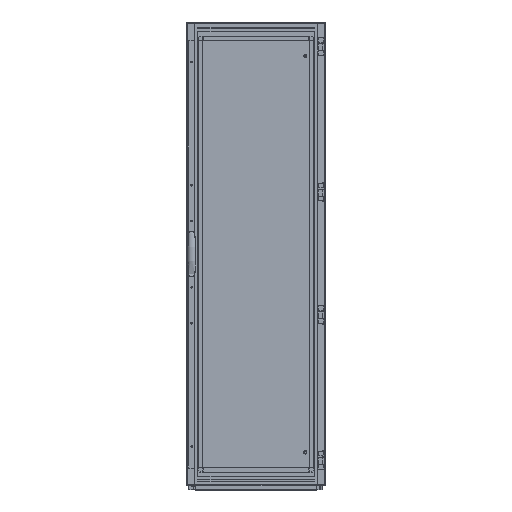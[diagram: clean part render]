
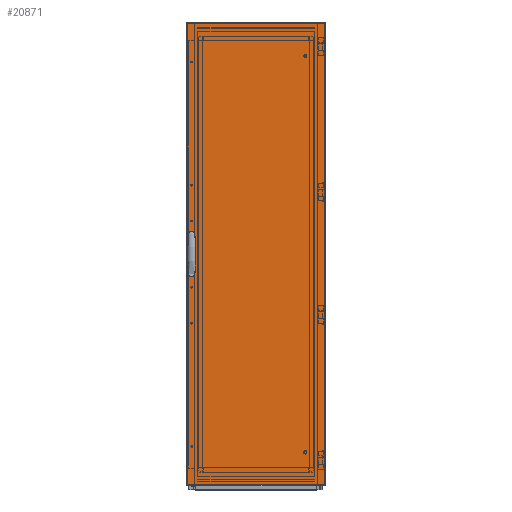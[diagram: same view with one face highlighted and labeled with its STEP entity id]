
A CAD part, top view. The second image highlights one B-rep face of the part: STEP entity #20871.
In plain terms, the highlighted planar face has unit normal (0, 0, 1) as drawn and (0, 0, -1) by its records, which use the part's own axes.
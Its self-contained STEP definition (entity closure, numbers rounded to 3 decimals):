
#289=CIRCLE('',#23048,2.6);
#290=CIRCLE('',#23049,2.6);
#3037=ORIENTED_EDGE('',*,*,#7710,.T.);
#3038=ORIENTED_EDGE('',*,*,#7711,.T.);
#3039=ORIENTED_EDGE('',*,*,#7712,.T.);
#3040=ORIENTED_EDGE('',*,*,#7713,.T.);
#3041=ORIENTED_EDGE('',*,*,#7714,.T.);
#3042=ORIENTED_EDGE('',*,*,#7715,.T.);
#3043=ORIENTED_EDGE('',*,*,#7716,.T.);
#3044=ORIENTED_EDGE('',*,*,#7717,.T.);
#3045=ORIENTED_EDGE('',*,*,#7718,.T.);
#3046=ORIENTED_EDGE('',*,*,#7719,.T.);
#3047=ORIENTED_EDGE('',*,*,#7720,.T.);
#3048=ORIENTED_EDGE('',*,*,#7721,.T.);
#3049=ORIENTED_EDGE('',*,*,#7722,.T.);
#3050=ORIENTED_EDGE('',*,*,#7723,.T.);
#3051=ORIENTED_EDGE('',*,*,#7724,.T.);
#3052=ORIENTED_EDGE('',*,*,#7725,.T.);
#3053=ORIENTED_EDGE('',*,*,#7726,.T.);
#3054=ORIENTED_EDGE('',*,*,#7727,.F.);
#3055=ORIENTED_EDGE('',*,*,#7728,.F.);
#3056=ORIENTED_EDGE('',*,*,#7729,.T.);
#3057=ORIENTED_EDGE('',*,*,#7730,.T.);
#3058=ORIENTED_EDGE('',*,*,#7731,.T.);
#7710=EDGE_CURVE('',#10255,#10256,#12505,.T.);
#7711=EDGE_CURVE('',#10256,#10257,#12506,.T.);
#7712=EDGE_CURVE('',#10257,#10258,#12507,.T.);
#7713=EDGE_CURVE('',#10258,#10259,#12508,.T.);
#7714=EDGE_CURVE('',#10259,#10260,#12509,.T.);
#7715=EDGE_CURVE('',#10260,#10261,#12510,.T.);
#7716=EDGE_CURVE('',#10261,#10262,#12511,.T.);
#7717=EDGE_CURVE('',#10262,#10263,#12512,.T.);
#7718=EDGE_CURVE('',#10263,#10264,#12513,.T.);
#7719=EDGE_CURVE('',#10264,#10265,#12514,.T.);
#7720=EDGE_CURVE('',#10265,#10266,#12515,.T.);
#7721=EDGE_CURVE('',#10266,#10267,#12516,.T.);
#7722=EDGE_CURVE('',#10267,#10268,#12517,.T.);
#7723=EDGE_CURVE('',#10268,#10269,#12518,.T.);
#7724=EDGE_CURVE('',#10269,#10270,#12519,.T.);
#7725=EDGE_CURVE('',#10270,#10255,#12520,.T.);
#7726=EDGE_CURVE('',#10271,#10272,#12521,.T.);
#7727=EDGE_CURVE('',#10273,#10272,#12522,.T.);
#7728=EDGE_CURVE('',#10274,#10273,#12523,.T.);
#7729=EDGE_CURVE('',#10274,#10271,#12524,.T.);
#7730=EDGE_CURVE('',#10275,#10275,#289,.T.);
#7731=EDGE_CURVE('',#10276,#10276,#290,.T.);
#10255=VERTEX_POINT('',#32011);
#10256=VERTEX_POINT('',#32012);
#10257=VERTEX_POINT('',#32014);
#10258=VERTEX_POINT('',#32016);
#10259=VERTEX_POINT('',#32018);
#10260=VERTEX_POINT('',#32020);
#10261=VERTEX_POINT('',#32022);
#10262=VERTEX_POINT('',#32024);
#10263=VERTEX_POINT('',#32026);
#10264=VERTEX_POINT('',#32028);
#10265=VERTEX_POINT('',#32030);
#10266=VERTEX_POINT('',#32032);
#10267=VERTEX_POINT('',#32034);
#10268=VERTEX_POINT('',#32036);
#10269=VERTEX_POINT('',#32038);
#10270=VERTEX_POINT('',#32040);
#10271=VERTEX_POINT('',#32043);
#10272=VERTEX_POINT('',#32044);
#10273=VERTEX_POINT('',#32046);
#10274=VERTEX_POINT('',#32048);
#10275=VERTEX_POINT('',#32051);
#10276=VERTEX_POINT('',#32053);
#12505=LINE('',#32010,#15155);
#12506=LINE('',#32013,#15156);
#12507=LINE('',#32015,#15157);
#12508=LINE('',#32017,#15158);
#12509=LINE('',#32019,#15159);
#12510=LINE('',#32021,#15160);
#12511=LINE('',#32023,#15161);
#12512=LINE('',#32025,#15162);
#12513=LINE('',#32027,#15163);
#12514=LINE('',#32029,#15164);
#12515=LINE('',#32031,#15165);
#12516=LINE('',#32033,#15166);
#12517=LINE('',#32035,#15167);
#12518=LINE('',#32037,#15168);
#12519=LINE('',#32039,#15169);
#12520=LINE('',#32041,#15170);
#12521=LINE('',#32042,#15171);
#12522=LINE('',#32045,#15172);
#12523=LINE('',#32047,#15173);
#12524=LINE('',#32049,#15174);
#15155=VECTOR('',#26189,1000.);
#15156=VECTOR('',#26190,1000.);
#15157=VECTOR('',#26191,1000.);
#15158=VECTOR('',#26192,1000.);
#15159=VECTOR('',#26193,1000.);
#15160=VECTOR('',#26194,1000.);
#15161=VECTOR('',#26195,1000.);
#15162=VECTOR('',#26196,1000.);
#15163=VECTOR('',#26197,1000.);
#15164=VECTOR('',#26198,1000.);
#15165=VECTOR('',#26199,1000.);
#15166=VECTOR('',#26200,1000.);
#15167=VECTOR('',#26201,1000.);
#15168=VECTOR('',#26202,1000.);
#15169=VECTOR('',#26203,1000.);
#15170=VECTOR('',#26204,1000.);
#15171=VECTOR('',#26205,1000.);
#15172=VECTOR('',#26206,1000.);
#15173=VECTOR('',#26207,1000.);
#15174=VECTOR('',#26208,1000.);
#17316=EDGE_LOOP('',(#3037,#3038,#3039,#3040,#3041,#3042,#3043,#3044,#3045,
#3046,#3047,#3048,#3049,#3050,#3051,#3052));
#17317=EDGE_LOOP('',(#3053,#3054,#3055,#3056));
#17318=EDGE_LOOP('',(#3057));
#17319=EDGE_LOOP('',(#3058));
#18662=FACE_BOUND('',#17316,.T.);
#18663=FACE_BOUND('',#17317,.T.);
#18664=FACE_BOUND('',#17318,.T.);
#18665=FACE_BOUND('',#17319,.T.);
#19820=PLANE('',#23047);
#20871=ADVANCED_FACE('',(#18662,#18663,#18664,#18665),#19820,.F.);
#23047=AXIS2_PLACEMENT_3D('',#32009,#26187,#26188);
#23048=AXIS2_PLACEMENT_3D('',#32050,#26209,#26210);
#23049=AXIS2_PLACEMENT_3D('',#32052,#26211,#26212);
#26187=DIRECTION('',(0.,0.,1.));
#26188=DIRECTION('',(1.,0.,0.));
#26189=DIRECTION('',(0.,-1.,0.));
#26190=DIRECTION('',(0.342,-0.94,0.));
#26191=DIRECTION('',(1.,0.,0.));
#26192=DIRECTION('',(0.,1.,0.));
#26193=DIRECTION('',(1.,0.,0.));
#26194=DIRECTION('',(0.,-1.,0.));
#26195=DIRECTION('',(1.,0.,0.));
#26196=DIRECTION('',(0.342,0.94,0.));
#26197=DIRECTION('',(0.,1.,0.));
#26198=DIRECTION('',(-0.342,0.94,0.));
#26199=DIRECTION('',(-1.,0.,0.));
#26200=DIRECTION('',(0.,-1.,0.));
#26201=DIRECTION('',(-1.,0.,0.));
#26202=DIRECTION('',(0.,1.,0.));
#26203=DIRECTION('',(-1.,0.,0.));
#26204=DIRECTION('',(-0.342,-0.94,0.));
#26205=DIRECTION('',(-1.,0.,0.));
#26206=DIRECTION('',(0.,-1.,0.));
#26207=DIRECTION('',(-1.,0.,0.));
#26208=DIRECTION('',(0.,-1.,0.));
#26209=DIRECTION('',(0.,0.,1.));
#26210=DIRECTION('',(1.,0.,0.));
#26211=DIRECTION('',(0.,0.,1.));
#26212=DIRECTION('',(1.,0.,0.));
#32009=CARTESIAN_POINT('',(296.5,1982.,-16.8));
#32010=CARTESIAN_POINT('',(262.95,1056.256,-16.8));
#32011=CARTESIAN_POINT('',(262.95,1056.256,-16.8));
#32012=CARTESIAN_POINT('',(262.95,925.744,-16.8));
#32013=CARTESIAN_POINT('',(262.95,925.744,-16.8));
#32014=CARTESIAN_POINT('',(264.95,920.25,-16.8));
#32015=CARTESIAN_POINT('',(264.95,920.25,-16.8));
#32016=CARTESIAN_POINT('',(270.2,920.25,-16.8));
#32017=CARTESIAN_POINT('',(270.2,920.25,-16.8));
#32018=CARTESIAN_POINT('',(270.2,928.,-16.8));
#32019=CARTESIAN_POINT('',(270.2,928.,-16.8));
#32020=CARTESIAN_POINT('',(281.2,928.,-16.8));
#32021=CARTESIAN_POINT('',(281.2,928.,-16.8));
#32022=CARTESIAN_POINT('',(281.2,920.25,-16.8));
#32023=CARTESIAN_POINT('',(281.2,920.25,-16.8));
#32024=CARTESIAN_POINT('',(286.45,920.25,-16.8));
#32025=CARTESIAN_POINT('',(286.45,920.25,-16.8));
#32026=CARTESIAN_POINT('',(288.45,925.744,-16.8));
#32027=CARTESIAN_POINT('',(288.45,925.744,-16.8));
#32028=CARTESIAN_POINT('',(288.45,1056.256,-16.8));
#32029=CARTESIAN_POINT('',(288.45,1056.256,-16.8));
#32030=CARTESIAN_POINT('',(286.45,1061.75,-16.8));
#32031=CARTESIAN_POINT('',(286.45,1061.75,-16.8));
#32032=CARTESIAN_POINT('',(281.2,1061.75,-16.8));
#32033=CARTESIAN_POINT('',(281.2,1061.75,-16.8));
#32034=CARTESIAN_POINT('',(281.2,1054.,-16.8));
#32035=CARTESIAN_POINT('',(281.2,1054.,-16.8));
#32036=CARTESIAN_POINT('',(270.2,1054.,-16.8));
#32037=CARTESIAN_POINT('',(270.2,1054.,-16.8));
#32038=CARTESIAN_POINT('',(270.2,1061.75,-16.8));
#32039=CARTESIAN_POINT('',(270.2,1061.75,-16.8));
#32040=CARTESIAN_POINT('',(264.95,1061.75,-16.8));
#32041=CARTESIAN_POINT('',(264.95,1061.75,-16.8));
#32042=CARTESIAN_POINT('',(296.5,0.,-16.8));
#32043=CARTESIAN_POINT('',(296.5,0.,-16.8));
#32044=CARTESIAN_POINT('',(-296.5,0.,-16.8));
#32045=CARTESIAN_POINT('',(-296.5,1982.,-16.8));
#32046=CARTESIAN_POINT('',(-296.5,1982.,-16.8));
#32047=CARTESIAN_POINT('',(296.5,1982.,-16.8));
#32048=CARTESIAN_POINT('',(296.5,1982.,-16.8));
#32049=CARTESIAN_POINT('',(296.5,1982.,-16.8));
#32050=CARTESIAN_POINT('',(275.7,1061.,-16.8));
#32051=CARTESIAN_POINT('',(278.3,1061.,-16.8));
#32052=CARTESIAN_POINT('',(275.7,921.,-16.8));
#32053=CARTESIAN_POINT('',(278.3,921.,-16.8));
